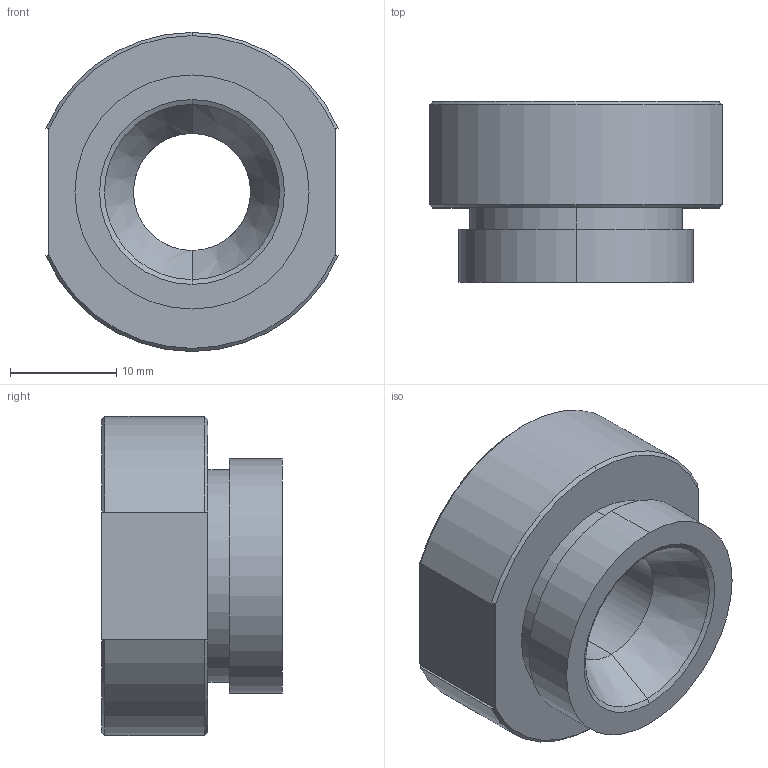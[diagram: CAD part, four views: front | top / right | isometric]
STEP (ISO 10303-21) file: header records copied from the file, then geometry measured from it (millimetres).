
FILE_DESCRIPTION (( 'STEP AP203' ), '1' );
FILE_NAME ('SW-PN-C10.STEP', '2022-04-06T01:49:39', ( '' ), ( '' ), 'SwSTEP 2.0', 'SolidWorks 2015', '' );
FILE_SCHEMA (( 'CONFIG_CONTROL_DESIGN' ));
Length unit declared in the file: millimetre
Products named in the file (2): SW-PN-C10
Bounding box: 27.5 x 17 x 30 mm (x, y, z)
Volume: 7418.1 mm3; surface area: 3225.5 mm2
Topology: 1 solids, 1 shells, 31 faces, 74 edges, 47 vertices
Faces by surface type: cone 12, plane 10, cylinder 9
Entity records: 1106 total; most frequent: CARTESIAN_POINT 236, DIRECTION 151, ORIENTED_EDGE 148, EDGE_CURVE 74, AXIS2_PLACEMENT_3D 62, VERTEX_POINT 47, EDGE_LOOP 35, ADVANCED_FACE 31
